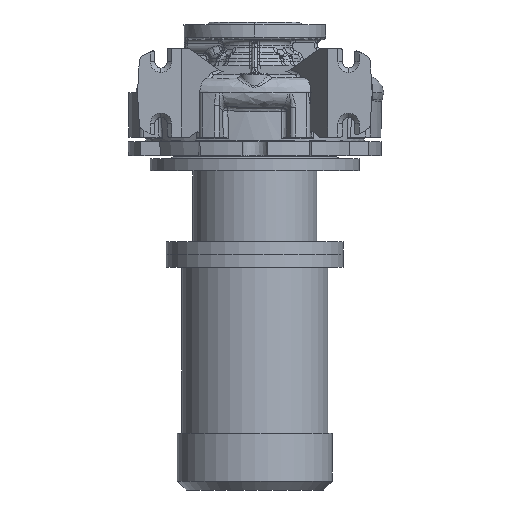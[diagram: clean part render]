
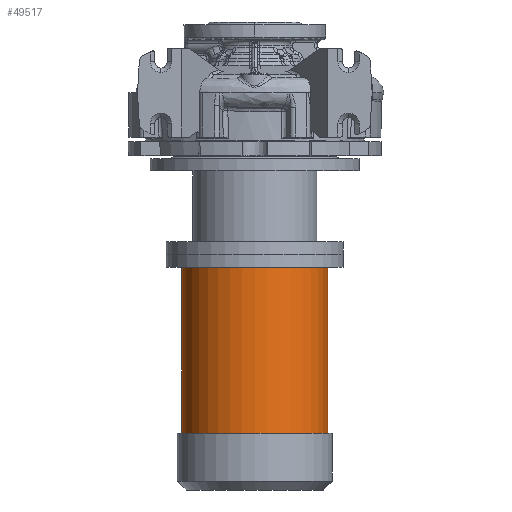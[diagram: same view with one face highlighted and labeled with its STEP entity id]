
A CAD part, front view. The second image highlights one B-rep face of the part: STEP entity #49517.
In plain terms, the highlighted cylindrical face has radius 82.5 mm (diameter 165 mm), a partial arc.
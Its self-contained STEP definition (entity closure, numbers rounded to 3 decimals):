
#3682 = CARTESIAN_POINT ( 'NONE',  ( 82.5, 0., -384.8 ) ) ;
#6515 = VERTEX_POINT ( 'NONE', #28313 ) ;
#6912 = DIRECTION ( 'NONE',  ( 0., 0., -1. ) ) ;
#7407 = EDGE_CURVE ( 'NONE', #19070, #17951, #53175, .T. ) ;
#9828 = VERTEX_POINT ( 'NONE', #3682 ) ;
#11907 = DIRECTION ( 'NONE',  ( 0., 0., -1. ) ) ;
#12857 = DIRECTION ( 'NONE',  ( -1., 0., 0. ) ) ;
#12862 = CIRCLE ( 'NONE', #15931, 82.5 ) ;
#14440 = CARTESIAN_POINT ( 'NONE',  ( 82.5, 0., -448.8 ) ) ;
#15547 = DIRECTION ( 'NONE',  ( -1., 0., 0. ) ) ;
#15931 = AXIS2_PLACEMENT_3D ( 'NONE', #44111, #6912, #12857 ) ;
#16218 = EDGE_LOOP ( 'NONE', ( #31641, #25554, #66768, #37000 ) ) ;
#16686 = DIRECTION ( 'NONE',  ( 0., 0., -1. ) ) ;
#17951 = VERTEX_POINT ( 'NONE', #47690 ) ;
#18205 = LINE ( 'NONE', #32801, #35291 ) ;
#19070 = VERTEX_POINT ( 'NONE', #31006 ) ;
#24037 = AXIS2_PLACEMENT_3D ( 'NONE', #67051, #67482, #15547 ) ;
#25554 = ORIENTED_EDGE ( 'NONE', *, *, #7407, .T. ) ;
#28313 = CARTESIAN_POINT ( 'NONE',  ( -82.5, 0., -384.8 ) ) ;
#30099 = DIRECTION ( 'NONE',  ( 0., 0., -1. ) ) ;
#31006 = CARTESIAN_POINT ( 'NONE',  ( 82.5, 0., -197.3 ) ) ;
#31641 = ORIENTED_EDGE ( 'NONE', *, *, #66730, .F. ) ;
#32658 = VECTOR ( 'NONE', #30099, 1000. ) ;
#32763 = CARTESIAN_POINT ( 'NONE',  ( 0., 0., -197.3 ) ) ;
#32801 = CARTESIAN_POINT ( 'NONE',  ( -82.5, 0., -448.8 ) ) ;
#34392 = LINE ( 'NONE', #14440, #32658 ) ;
#35291 = VECTOR ( 'NONE', #11907, 1000. ) ;
#36740 = EDGE_CURVE ( 'NONE', #17951, #6515, #18205, .T. ) ;
#37000 = ORIENTED_EDGE ( 'NONE', *, *, #42833, .F. ) ;
#38062 = DIRECTION ( 'NONE',  ( -1., 0., 0. ) ) ;
#42139 = CYLINDRICAL_SURFACE ( 'NONE', #24037, 82.5 ) ;
#42833 = EDGE_CURVE ( 'NONE', #9828, #6515, #12862, .T. ) ;
#44111 = CARTESIAN_POINT ( 'NONE',  ( 0., 0., -384.8 ) ) ;
#47690 = CARTESIAN_POINT ( 'NONE',  ( -82.5, 0., -197.3 ) ) ;
#49517 = ADVANCED_FACE ( 'NONE', ( #52788 ), #42139, .T. ) ;
#52788 = FACE_OUTER_BOUND ( 'NONE', #16218, .T. ) ;
#53175 = CIRCLE ( 'NONE', #67601, 82.5 ) ;
#66730 = EDGE_CURVE ( 'NONE', #19070, #9828, #34392, .T. ) ;
#66768 = ORIENTED_EDGE ( 'NONE', *, *, #36740, .T. ) ;
#67051 = CARTESIAN_POINT ( 'NONE',  ( 0., 0., -448.8 ) ) ;
#67482 = DIRECTION ( 'NONE',  ( 0., 0., -1. ) ) ;
#67601 = AXIS2_PLACEMENT_3D ( 'NONE', #32763, #16686, #38062 ) ;
